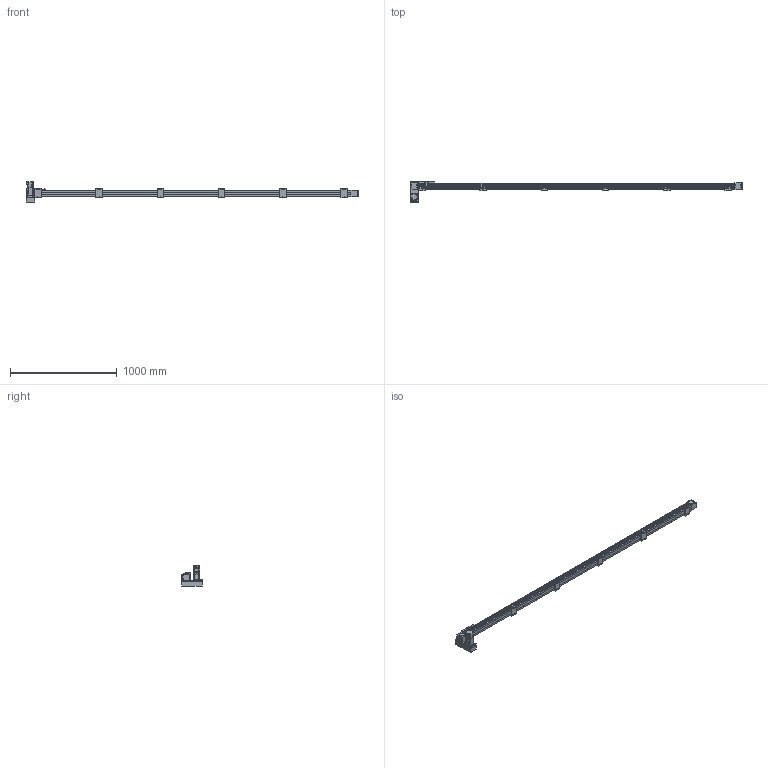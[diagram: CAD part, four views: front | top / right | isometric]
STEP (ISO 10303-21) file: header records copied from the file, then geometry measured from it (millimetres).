
FILE_DESCRIPTION(/* description */ ('STEP AP214'),/* implementation_level */ '2;1');
FILE_NAME(/* name */ 'SK60-P13-S2800-LD-T40-C1-N(0)',/* time_stamp */ '2023-04-06T04:40:11+02:00',/* author */ ('License CC BY-ND 4.0'),/* organization */ ('CADENAS'),/* preprocessor_version */ 'ST-DEVELOPER v19.3',/* originating_system */ 'PARTsolutions',/* authorisation */ ' ');
FILE_SCHEMA (('AUTOMOTIVE_DESIGN {1 0 10303 214 3 1 1}'));
Length unit declared in the file: millimetre
Products named in the file (10): SK60-P13-S2800-LD-T40-C1-N(0); PSC140-sensor; SK60-S450_seat; SK60-S450-BL-C1_slider; SK60_body3; SK60_body6; SK60-BL_body2; T40-p1; SK60-LD_fb; SK60-S2800-LD-C1_body
Assembly tree (20 placements, depth 2):
  SK60-P13-S2800-LD-T40-C1-N(0)
    PSC140-sensor  x3
    SK60-S450_seat  x6
    SK60-S450-BL-C1_slider
    SK60_body3  x3
    SK60_body6  x2
    SK60-BL_body2  x2
    T40-p1
    SK60-LD_fb
    SK60-S2800-LD-C1_body
Bounding box: 3105.5 x 199 x 189.7 mm (x, y, z)
Volume: 11740938.7 mm3; surface area: 1376710 mm2
Topology: 20 solids, 20 shells, 986 faces, 2440 edges, 1605 vertices
Faces by surface type: plane 620, cylinder 326, cone 38, torus 2
Full cylindrical faces by diameter (mm): 2.8 x3, 3.3 x4, 4 x2, 4.5 x30, 4.6 x3, 4.917 x32, 5 x6, 5.478 x4, 5.5 x35, 6.5 x12, 7 x2, 8 x4, 8.5 x4, 9.988 x4, 10 x24, 14 x1, 47 x3, 50 x2
Entity records: 18687 total; most frequent: DIRECTION 3192, CARTESIAN_POINT 3154, ORIENTED_EDGE 2940, EDGE_CURVE 1470, AXIS2_PLACEMENT_3D 1072, LINE 1048, VECTOR 1048, VERTEX_POINT 1034
